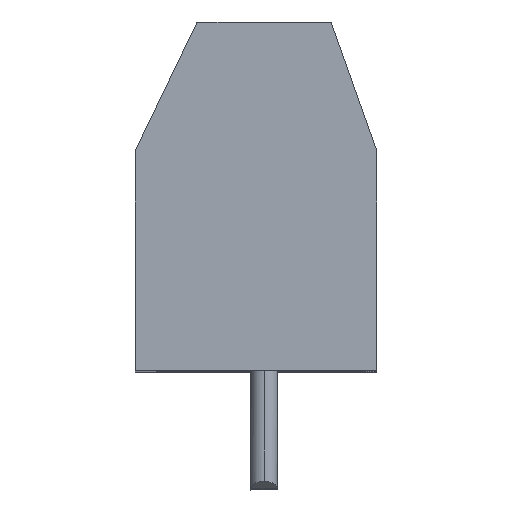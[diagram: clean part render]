
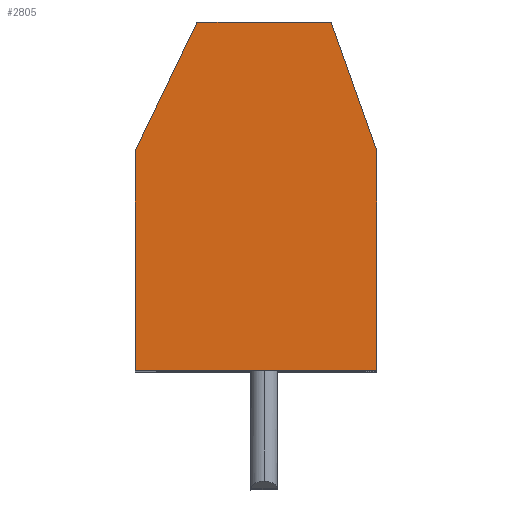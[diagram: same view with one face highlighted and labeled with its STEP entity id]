
A CAD part, top view. The second image highlights one B-rep face of the part: STEP entity #2805.
In plain terms, the highlighted planar face has unit normal (0, 0, 1).
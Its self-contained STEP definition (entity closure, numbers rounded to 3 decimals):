
#2410 = VERTEX_POINT ( 'NONE', #5454 ) ;
#2412 = EDGE_CURVE ( 'NONE', #2413, #2410, #5453, .T. ) ;
#2413 = VERTEX_POINT ( 'NONE', #5449 ) ;
#2421 = VERTEX_POINT ( 'NONE', #5433 ) ;
#2466 = EDGE_CURVE ( 'NONE', #2421, #2413, #5480, .T. ) ;
#2487 = EDGE_CURVE ( 'NONE', #2488, #2421, #5472, .T. ) ;
#2488 = VERTEX_POINT ( 'NONE', #5468 ) ;
#2745 = VERTEX_POINT ( 'NONE', #6066 ) ;
#2747 = EDGE_CURVE ( 'NONE', #2410, #2745, #6065, .T. ) ;
#2805 = ADVANCED_FACE ( 'NONE', ( #6181 ), #6180, .T. ) ;
#2806 = EDGE_LOOP ( 'NONE', ( #2807, #2810, #2811, #2812, #2813, #2814 ) ) ;
#2807 = ORIENTED_EDGE ( 'NONE', *, *, #2808, .T. ) ;
#2808 = EDGE_CURVE ( 'NONE', #2809, #2488, #6175, .T. ) ;
#2809 = VERTEX_POINT ( 'NONE', #6171 ) ;
#2810 = ORIENTED_EDGE ( 'NONE', *, *, #2487, .T. ) ;
#2811 = ORIENTED_EDGE ( 'NONE', *, *, #2466, .T. ) ;
#2812 = ORIENTED_EDGE ( 'NONE', *, *, #2412, .T. ) ;
#2813 = ORIENTED_EDGE ( 'NONE', *, *, #2747, .T. ) ;
#2814 = ORIENTED_EDGE ( 'NONE', *, *, #2815, .T. ) ;
#2815 = EDGE_CURVE ( 'NONE', #2745, #2809, #6170, .T. ) ;
#5433 = CARTESIAN_POINT ( 'NONE',  ( -4.8, 0., 0. ) ) ;
#5449 = CARTESIAN_POINT ( 'NONE',  ( 4.2, 0., 0. ) ) ;
#5450 = DIRECTION ( 'NONE',  ( 0., 1., 0. ) ) ;
#5451 = VECTOR ( 'NONE', #5450, 1000. ) ;
#5452 = CARTESIAN_POINT ( 'NONE',  ( 4.2, 6.5, 0. ) ) ;
#5453 = LINE ( 'NONE', #5452, #5451 ) ;
#5454 = CARTESIAN_POINT ( 'NONE',  ( 4.2, 8.2, 0. ) ) ;
#5468 = CARTESIAN_POINT ( 'NONE',  ( -4.8, 8.2, 0. ) ) ;
#5469 = DIRECTION ( 'NONE',  ( 0., -1., 0. ) ) ;
#5470 = VECTOR ( 'NONE', #5469, 1000. ) ;
#5471 = CARTESIAN_POINT ( 'NONE',  ( -4.8, 6.5, 0. ) ) ;
#5472 = LINE ( 'NONE', #5471, #5470 ) ;
#5477 = DIRECTION ( 'NONE',  ( 1., 0., 0. ) ) ;
#5478 = VECTOR ( 'NONE', #5477, 1000. ) ;
#5479 = CARTESIAN_POINT ( 'NONE',  ( -0.3, 0., 0. ) ) ;
#5480 = LINE ( 'NONE', #5479, #5478 ) ;
#6062 = DIRECTION ( 'NONE',  ( -0.334, 0.943, 0. ) ) ;
#6063 = VECTOR ( 'NONE', #6062, 1000. ) ;
#6064 = CARTESIAN_POINT ( 'NONE',  ( 4.2, 8.2, 0. ) ) ;
#6065 = LINE ( 'NONE', #6064, #6063 ) ;
#6066 = CARTESIAN_POINT ( 'NONE',  ( 2.5, 13., 0. ) ) ;
#6167 = DIRECTION ( 'NONE',  ( -1., 0., 0. ) ) ;
#6168 = VECTOR ( 'NONE', #6167, 1000. ) ;
#6169 = CARTESIAN_POINT ( 'NONE',  ( 0., 13., 0. ) ) ;
#6170 = LINE ( 'NONE', #6169, #6168 ) ;
#6171 = CARTESIAN_POINT ( 'NONE',  ( -2.5, 13., 0. ) ) ;
#6172 = DIRECTION ( 'NONE',  ( -0.432, -0.902, 0. ) ) ;
#6173 = VECTOR ( 'NONE', #6172, 1000. ) ;
#6174 = CARTESIAN_POINT ( 'NONE',  ( -3.65, 10.6, 0. ) ) ;
#6175 = LINE ( 'NONE', #6174, #6173 ) ;
#6176 = DIRECTION ( 'NONE',  ( 1., 0., 0. ) ) ;
#6177 = DIRECTION ( 'NONE',  ( 0., 0., 1. ) ) ;
#6178 = CARTESIAN_POINT ( 'NONE',  ( -4.8, 0., 0. ) ) ;
#6179 = AXIS2_PLACEMENT_3D ( 'NONE', #6178, #6177, #6176 ) ;
#6180 = PLANE ( 'NONE',  #6179 ) ;
#6181 = FACE_OUTER_BOUND ( 'NONE', #2806, .T. ) ;
